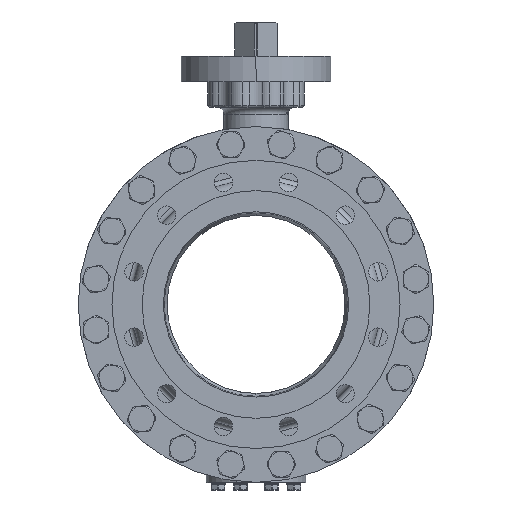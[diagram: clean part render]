
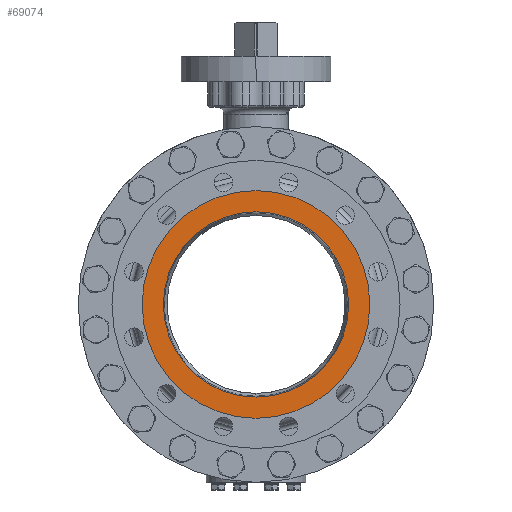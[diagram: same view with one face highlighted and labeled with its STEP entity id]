
A CAD part, left-side view. The second image highlights one B-rep face of the part: STEP entity #69074.
In plain terms, the highlighted planar face has unit normal (-1, 0, 0).
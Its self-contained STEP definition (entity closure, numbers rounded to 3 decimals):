
#3454=CARTESIAN_POINT('',(-266.5,0.,0.));
#3455=DIRECTION('',(1.,0.,0.));
#3456=DIRECTION('',(0.,0.,1.));
#3457=AXIS2_PLACEMENT_3D('',#3454,#3455,#3456);
#3459=CARTESIAN_POINT('',(-266.5,0.,0.));
#3460=DIRECTION('',(1.,0.,0.));
#3461=DIRECTION('',(0.,0.,-1.));
#3462=AXIS2_PLACEMENT_3D('',#3459,#3460,#3461);
#3464=CARTESIAN_POINT('',(-266.5,0.,0.));
#3465=DIRECTION('',(1.,0.,0.));
#3466=DIRECTION('',(0.,0.,1.));
#3467=AXIS2_PLACEMENT_3D('',#3464,#3465,#3466);
#3469=CARTESIAN_POINT('',(-266.5,0.,0.));
#3470=DIRECTION('',(-1.,0.,0.));
#3471=DIRECTION('',(0.,0.,1.));
#3472=AXIS2_PLACEMENT_3D('',#3469,#3470,#3471);
#58500=CARTESIAN_POINT('',(-266.5,0.,130.2));
#58502=VERTEX_POINT('',#58500);
#58504=CARTESIAN_POINT('',(-266.5,0.,-130.2));
#58506=VERTEX_POINT('',#58504);
#58535=CARTESIAN_POINT('',(-266.5,0.,160.));
#58536=CARTESIAN_POINT('',(-266.5,0.,-160.));
#58537=VERTEX_POINT('',#58535);
#58538=VERTEX_POINT('',#58536);
#69058=CARTESIAN_POINT('',(-266.5,0.,0.));
#69059=DIRECTION('',(-1.,0.,0.));
#69060=DIRECTION('',(0.,0.,-1.));
#69061=AXIS2_PLACEMENT_3D('',#69058,#69059,#69060);
#69062=PLANE('',#69061);
#69064=ORIENTED_EDGE('',*,*,#69063,.T.);
#69065=ORIENTED_EDGE('',*,*,#69048,.T.);
#69066=EDGE_LOOP('',(#69064,#69065));
#69067=FACE_OUTER_BOUND('',#69066,.F.);
#69069=ORIENTED_EDGE('',*,*,#69068,.F.);
#69071=ORIENTED_EDGE('',*,*,#69070,.T.);
#69072=EDGE_LOOP('',(#69069,#69071));
#69073=FACE_BOUND('',#69072,.F.);
#69074=ADVANCED_FACE('',(#69067,#69073),#69062,.T.);
#3458=CIRCLE('',#3457,160.);
#3463=CIRCLE('',#3462,160.);
#3468=CIRCLE('',#3467,130.2);
#3473=CIRCLE('',#3472,130.2);
#69048=EDGE_CURVE('',#58538,#58537,#3463,.T.);
#69063=EDGE_CURVE('',#58537,#58538,#3458,.T.);
#69068=EDGE_CURVE('',#58502,#58506,#3468,.T.);
#69070=EDGE_CURVE('',#58502,#58506,#3473,.T.);
